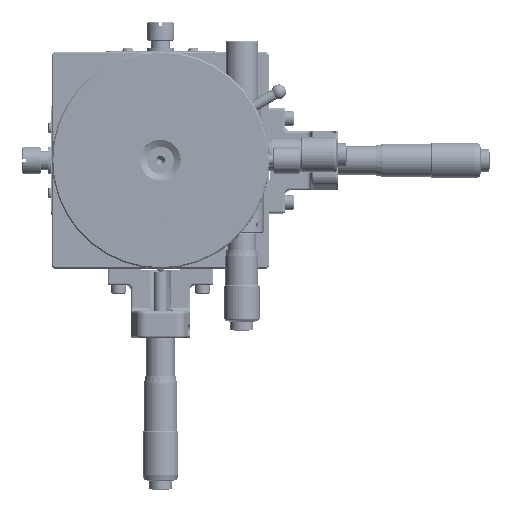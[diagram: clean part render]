
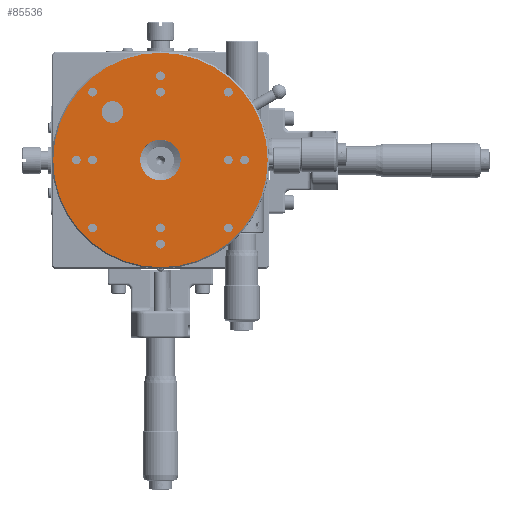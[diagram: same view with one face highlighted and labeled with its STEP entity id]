
A CAD part, top view. The second image highlights one B-rep face of the part: STEP entity #85536.
In plain terms, the highlighted planar face has unit normal (0, 0, 1).
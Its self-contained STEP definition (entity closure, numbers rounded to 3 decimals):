
#85366=CARTESIAN_POINT('',(0.0,20.0,0.0));
#85367=DIRECTION('',(0.0,0.0,1.0));
#85368=DIRECTION('',(1.0,0.0,0.0));
#85369=AXIS2_PLACEMENT_3D('',#85366,#85367,#85368);
#85370=PLANE('',#85369);
#85371=CARTESIAN_POINT('',(0.,39.5,0.));
#85372=VERTEX_POINT('',#85371);
#85373=CARTESIAN_POINT('',(0.0,0.,0.));
#85374=DIRECTION('',(0.0,0.0,-1.0));
#85375=DIRECTION('',(0.0,-1.0,0.0));
#85376=AXIS2_PLACEMENT_3D('',#85373,#85374,#85375);
#85377=CIRCLE('',#85376,39.5);
#85378=EDGE_CURVE('',#85372,#85372,#85377,.T.);
#85379=ORIENTED_EDGE('',*,*,#85378,.F.);
#85380=EDGE_LOOP('',(#85379));
#85381=FACE_OUTER_BOUND('',#85380,.T.);
#85382=CARTESIAN_POINT('',(31.0,-1.621,0.));
#85383=VERTEX_POINT('',#85382);
#85384=CARTESIAN_POINT('',(31.0,0.,0.0));
#85385=DIRECTION('',(0.0,0.0,-1.0));
#85386=DIRECTION('',(0.0,-1.0,0.0));
#85387=AXIS2_PLACEMENT_3D('',#85384,#85385,#85386);
#85388=CIRCLE('',#85387,1.621);
#85389=EDGE_CURVE('',#85383,#85383,#85388,.T.);
#85390=ORIENTED_EDGE('',*,*,#85389,.T.);
#85391=EDGE_LOOP('',(#85390));
#85392=FACE_BOUND('',#85391,.T.);
#85393=CARTESIAN_POINT('',(-1.621,-31.0,0.));
#85394=VERTEX_POINT('',#85393);
#85395=CARTESIAN_POINT('',(0.,-31.0,0.));
#85396=DIRECTION('',(0.0,0.0,-1.0));
#85397=DIRECTION('',(-1.0,0.0,0.0));
#85398=AXIS2_PLACEMENT_3D('',#85395,#85396,#85397);
#85399=CIRCLE('',#85398,1.621);
#85400=EDGE_CURVE('',#85394,#85394,#85399,.T.);
#85401=ORIENTED_EDGE('',*,*,#85400,.T.);
#85402=EDGE_LOOP('',(#85401));
#85403=FACE_BOUND('',#85402,.T.);
#85404=CARTESIAN_POINT('',(-31.0,1.621,0.));
#85405=VERTEX_POINT('',#85404);
#85406=CARTESIAN_POINT('',(-31.0,0.,0.0));
#85407=DIRECTION('',(0.0,0.0,-1.0));
#85408=DIRECTION('',(0.0,1.0,0.0));
#85409=AXIS2_PLACEMENT_3D('',#85406,#85407,#85408);
#85410=CIRCLE('',#85409,1.621);
#85411=EDGE_CURVE('',#85405,#85405,#85410,.T.);
#85412=ORIENTED_EDGE('',*,*,#85411,.T.);
#85413=EDGE_LOOP('',(#85412));
#85414=FACE_BOUND('',#85413,.T.);
#85415=CARTESIAN_POINT('',(1.621,31.0,0.));
#85416=VERTEX_POINT('',#85415);
#85417=CARTESIAN_POINT('',(0.0,31.0,0.0));
#85418=DIRECTION('',(0.0,0.0,-1.0));
#85419=DIRECTION('',(1.0,0.0,0.0));
#85420=AXIS2_PLACEMENT_3D('',#85417,#85418,#85419);
#85421=CIRCLE('',#85420,1.621);
#85422=EDGE_CURVE('',#85416,#85416,#85421,.T.);
#85423=ORIENTED_EDGE('',*,*,#85422,.T.);
#85424=EDGE_LOOP('',(#85423));
#85425=FACE_BOUND('',#85424,.T.);
#85426=CARTESIAN_POINT('',(25.,-26.621,0.));
#85427=VERTEX_POINT('',#85426);
#85428=CARTESIAN_POINT('',(25.,-25.,0.0));
#85429=DIRECTION('',(0.0,0.0,-1.0));
#85430=DIRECTION('',(0.0,-1.0,0.0));
#85431=AXIS2_PLACEMENT_3D('',#85428,#85429,#85430);
#85432=CIRCLE('',#85431,1.621);
#85433=EDGE_CURVE('',#85427,#85427,#85432,.T.);
#85434=ORIENTED_EDGE('',*,*,#85433,.T.);
#85435=EDGE_LOOP('',(#85434));
#85436=FACE_BOUND('',#85435,.T.);
#85437=CARTESIAN_POINT('',(25.0,-1.621,0.));
#85438=VERTEX_POINT('',#85437);
#85439=CARTESIAN_POINT('',(25.0,0.,0.0));
#85440=DIRECTION('',(0.0,0.0,-1.0));
#85441=DIRECTION('',(0.0,-1.0,0.0));
#85442=AXIS2_PLACEMENT_3D('',#85439,#85440,#85441);
#85443=CIRCLE('',#85442,1.621);
#85444=EDGE_CURVE('',#85438,#85438,#85443,.T.);
#85445=ORIENTED_EDGE('',*,*,#85444,.T.);
#85446=EDGE_LOOP('',(#85445));
#85447=FACE_BOUND('',#85446,.T.);
#85448=CARTESIAN_POINT('',(-26.621,-25.0,0.));
#85449=VERTEX_POINT('',#85448);
#85450=CARTESIAN_POINT('',(-25.0,-25.0,0.0));
#85451=DIRECTION('',(0.0,0.0,-1.0));
#85452=DIRECTION('',(-1.0,0.0,0.0));
#85453=AXIS2_PLACEMENT_3D('',#85450,#85451,#85452);
#85454=CIRCLE('',#85453,1.621);
#85455=EDGE_CURVE('',#85449,#85449,#85454,.T.);
#85456=ORIENTED_EDGE('',*,*,#85455,.T.);
#85457=EDGE_LOOP('',(#85456));
#85458=FACE_BOUND('',#85457,.T.);
#85459=CARTESIAN_POINT('',(-1.621,-25.0,0.));
#85460=VERTEX_POINT('',#85459);
#85461=CARTESIAN_POINT('',(0.,-25.0,0.0));
#85462=DIRECTION('',(0.0,0.0,-1.0));
#85463=DIRECTION('',(-1.0,0.0,0.0));
#85464=AXIS2_PLACEMENT_3D('',#85461,#85462,#85463);
#85465=CIRCLE('',#85464,1.621);
#85466=EDGE_CURVE('',#85460,#85460,#85465,.T.);
#85467=ORIENTED_EDGE('',*,*,#85466,.T.);
#85468=EDGE_LOOP('',(#85467));
#85469=FACE_BOUND('',#85468,.T.);
#85470=CARTESIAN_POINT('',(-25.0,26.621,0.));
#85471=VERTEX_POINT('',#85470);
#85472=CARTESIAN_POINT('',(-25.0,25.0,0.0));
#85473=DIRECTION('',(0.0,0.0,-1.0));
#85474=DIRECTION('',(0.0,1.0,0.0));
#85475=AXIS2_PLACEMENT_3D('',#85472,#85473,#85474);
#85476=CIRCLE('',#85475,1.621);
#85477=EDGE_CURVE('',#85471,#85471,#85476,.T.);
#85478=ORIENTED_EDGE('',*,*,#85477,.T.);
#85479=EDGE_LOOP('',(#85478));
#85480=FACE_BOUND('',#85479,.T.);
#85481=CARTESIAN_POINT('',(-25.0,1.621,0.));
#85482=VERTEX_POINT('',#85481);
#85483=CARTESIAN_POINT('',(-25.0,0.,0.0));
#85484=DIRECTION('',(0.0,0.0,-1.0));
#85485=DIRECTION('',(0.0,1.0,0.0));
#85486=AXIS2_PLACEMENT_3D('',#85483,#85484,#85485);
#85487=CIRCLE('',#85486,1.621);
#85488=EDGE_CURVE('',#85482,#85482,#85487,.T.);
#85489=ORIENTED_EDGE('',*,*,#85488,.T.);
#85490=EDGE_LOOP('',(#85489));
#85491=FACE_BOUND('',#85490,.T.);
#85492=CARTESIAN_POINT('',(26.621,25.0,0.));
#85493=VERTEX_POINT('',#85492);
#85494=CARTESIAN_POINT('',(25.0,25.0,0.0));
#85495=DIRECTION('',(0.0,0.0,-1.0));
#85496=DIRECTION('',(1.0,0.0,0.0));
#85497=AXIS2_PLACEMENT_3D('',#85494,#85495,#85496);
#85498=CIRCLE('',#85497,1.621);
#85499=EDGE_CURVE('',#85493,#85493,#85498,.T.);
#85500=ORIENTED_EDGE('',*,*,#85499,.T.);
#85501=EDGE_LOOP('',(#85500));
#85502=FACE_BOUND('',#85501,.T.);
#85503=CARTESIAN_POINT('',(1.621,25.0,0.));
#85504=VERTEX_POINT('',#85503);
#85505=CARTESIAN_POINT('',(0.0,25.0,0.0));
#85506=DIRECTION('',(0.0,0.0,-1.0));
#85507=DIRECTION('',(1.0,0.0,0.0));
#85508=AXIS2_PLACEMENT_3D('',#85505,#85506,#85507);
#85509=CIRCLE('',#85508,1.621);
#85510=EDGE_CURVE('',#85504,#85504,#85509,.T.);
#85511=ORIENTED_EDGE('',*,*,#85510,.T.);
#85512=EDGE_LOOP('',(#85511));
#85513=FACE_BOUND('',#85512,.T.);
#85514=CARTESIAN_POINT('',(-13.678,17.678,0.));
#85515=VERTEX_POINT('',#85514);
#85516=CARTESIAN_POINT('',(-17.678,17.678,0.0));
#85517=DIRECTION('',(0.0,0.0,-1.0));
#85518=DIRECTION('',(1.0,0.0,0.0));
#85519=AXIS2_PLACEMENT_3D('',#85516,#85517,#85518);
#85520=CIRCLE('',#85519,4.0);
#85521=EDGE_CURVE('',#85515,#85515,#85520,.T.);
#85522=ORIENTED_EDGE('',*,*,#85521,.T.);
#85523=EDGE_LOOP('',(#85522));
#85524=FACE_BOUND('',#85523,.T.);
#85525=CARTESIAN_POINT('',(7.459,0.,0.));
#85526=VERTEX_POINT('',#85525);
#85527=CARTESIAN_POINT('',(0.0,0.,0.));
#85528=DIRECTION('',(0.0,0.0,-1.0));
#85529=DIRECTION('',(1.0,0.0,0.0));
#85530=AXIS2_PLACEMENT_3D('',#85527,#85528,#85529);
#85531=CIRCLE('',#85530,7.459);
#85532=EDGE_CURVE('',#85526,#85526,#85531,.T.);
#85533=ORIENTED_EDGE('',*,*,#85532,.T.);
#85534=EDGE_LOOP('',(#85533));
#85535=FACE_BOUND('',#85534,.T.);
#85536=ADVANCED_FACE('',(#85381,#85392,#85403,#85414,#85425,#85436,#85447,#85458,#85469,#85480,#85491,#85502,#85513,#85524,#85535),#85370,.T.);
